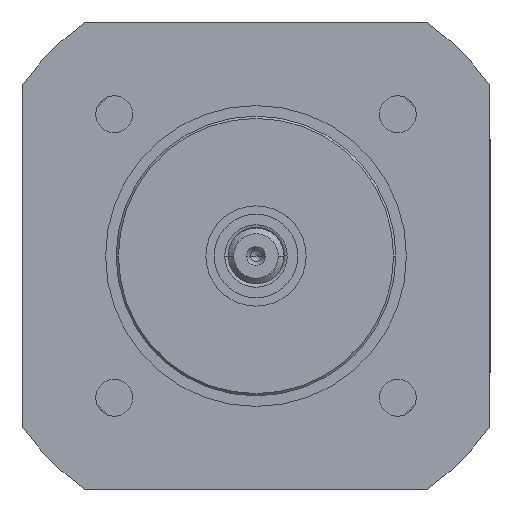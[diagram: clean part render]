
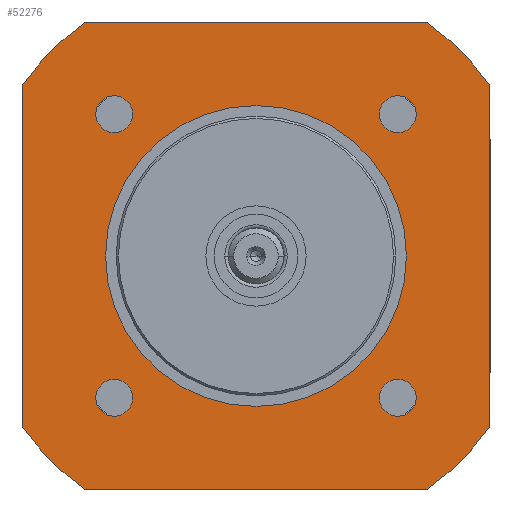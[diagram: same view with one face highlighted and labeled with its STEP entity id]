
A CAD part, left-side view. The second image highlights one B-rep face of the part: STEP entity #52276.
In plain terms, the highlighted planar face has unit normal (-1, 0, 0).
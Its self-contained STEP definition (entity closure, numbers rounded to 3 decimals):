
#1985=CARTESIAN_POINT('',(-10.5,0.,0.));
#1986=DIRECTION('',(-1.,0.,0.));
#1987=DIRECTION('',(0.,-0.59,-0.808));
#1988=AXIS2_PLACEMENT_3D('',#1985,#1986,#1987);
#1990=DIRECTION('',(0.,-1.,0.));
#1991=VECTOR('',#1990,30.659);
#1992=CARTESIAN_POINT('',(-10.5,15.33,-21.));
#1993=LINE('',#1992,#1991);
#1994=CARTESIAN_POINT('',(-10.5,0.,0.));
#1995=DIRECTION('',(-1.,0.,0.));
#1996=DIRECTION('',(0.,0.808,-0.59));
#1997=AXIS2_PLACEMENT_3D('',#1994,#1995,#1996);
#1999=DIRECTION('',(0.,0.,-1.));
#2000=VECTOR('',#1999,30.659);
#2001=CARTESIAN_POINT('',(-10.5,21.,15.33));
#2002=LINE('',#2001,#2000);
#2003=CARTESIAN_POINT('',(-10.5,0.,0.));
#2004=DIRECTION('',(-1.,0.,0.));
#2005=DIRECTION('',(0.,0.59,0.808));
#2006=AXIS2_PLACEMENT_3D('',#2003,#2004,#2005);
#2008=DIRECTION('',(0.,1.,0.));
#2009=VECTOR('',#2008,30.659);
#2010=CARTESIAN_POINT('',(-10.5,-15.33,21.));
#2011=LINE('',#2010,#2009);
#2012=CARTESIAN_POINT('',(-10.5,0.,0.));
#2013=DIRECTION('',(-1.,0.,0.));
#2014=DIRECTION('',(0.,-0.808,0.59));
#2015=AXIS2_PLACEMENT_3D('',#2012,#2013,#2014);
#2017=DIRECTION('',(0.,0.,1.));
#2018=VECTOR('',#2017,30.659);
#2019=CARTESIAN_POINT('',(-10.5,-21.,-15.33));
#2020=LINE('',#2019,#2018);
#2021=CARTESIAN_POINT('',(-10.5,0.,0.));
#2022=DIRECTION('',(-1.,0.,0.));
#2023=DIRECTION('',(0.,0.,1.));
#2024=AXIS2_PLACEMENT_3D('',#2021,#2022,#2023);
#2026=CARTESIAN_POINT('',(-10.5,0.,0.));
#2027=DIRECTION('',(-1.,0.,0.));
#2028=DIRECTION('',(0.,0.,-1.));
#2029=AXIS2_PLACEMENT_3D('',#2026,#2027,#2028);
#2031=CARTESIAN_POINT('',(-10.5,12.728,-12.728));
#2032=DIRECTION('',(-1.,0.,0.));
#2033=DIRECTION('',(0.,1.,0.));
#2034=AXIS2_PLACEMENT_3D('',#2031,#2032,#2033);
#2036=CARTESIAN_POINT('',(-10.5,12.728,-12.728));
#2037=DIRECTION('',(-1.,0.,0.));
#2038=DIRECTION('',(0.,-1.,0.));
#2039=AXIS2_PLACEMENT_3D('',#2036,#2037,#2038);
#2041=CARTESIAN_POINT('',(-10.5,-12.728,-12.728));
#2042=DIRECTION('',(-1.,0.,0.));
#2043=DIRECTION('',(0.,0.,-1.));
#2044=AXIS2_PLACEMENT_3D('',#2041,#2042,#2043);
#2046=CARTESIAN_POINT('',(-10.5,-12.728,-12.728));
#2047=DIRECTION('',(-1.,0.,0.));
#2048=DIRECTION('',(0.,0.,1.));
#2049=AXIS2_PLACEMENT_3D('',#2046,#2047,#2048);
#2051=CARTESIAN_POINT('',(-10.5,-12.728,12.728));
#2052=DIRECTION('',(-1.,0.,0.));
#2053=DIRECTION('',(0.,-1.,0.));
#2054=AXIS2_PLACEMENT_3D('',#2051,#2052,#2053);
#2056=CARTESIAN_POINT('',(-10.5,-12.728,12.728));
#2057=DIRECTION('',(-1.,0.,0.));
#2058=DIRECTION('',(0.,1.,0.));
#2059=AXIS2_PLACEMENT_3D('',#2056,#2057,#2058);
#2061=CARTESIAN_POINT('',(-10.5,12.728,12.728));
#2062=DIRECTION('',(-1.,0.,0.));
#2063=DIRECTION('',(0.,0.,1.));
#2064=AXIS2_PLACEMENT_3D('',#2061,#2062,#2063);
#2066=CARTESIAN_POINT('',(-10.5,12.728,12.728));
#2067=DIRECTION('',(-1.,0.,0.));
#2068=DIRECTION('',(0.,0.,-1.));
#2069=AXIS2_PLACEMENT_3D('',#2066,#2067,#2068);
#45876=CARTESIAN_POINT('',(-10.5,-21.,-15.33));
#45877=CARTESIAN_POINT('',(-10.5,-21.,15.33));
#45878=VERTEX_POINT('',#45876);
#45879=VERTEX_POINT('',#45877);
#45880=CARTESIAN_POINT('',(-10.5,-15.33,21.));
#45881=CARTESIAN_POINT('',(-10.5,15.33,21.));
#45882=VERTEX_POINT('',#45880);
#45883=VERTEX_POINT('',#45881);
#45884=CARTESIAN_POINT('',(-10.5,21.,15.33));
#45885=CARTESIAN_POINT('',(-10.5,21.,-15.33));
#45886=VERTEX_POINT('',#45884);
#45887=VERTEX_POINT('',#45885);
#45888=CARTESIAN_POINT('',(-10.5,15.33,-21.));
#45889=CARTESIAN_POINT('',(-10.5,-15.33,-21.));
#45890=VERTEX_POINT('',#45888);
#45891=VERTEX_POINT('',#45889);
#45932=CARTESIAN_POINT('',(-10.5,0.,13.5));
#45933=CARTESIAN_POINT('',(-10.5,0.,-13.5));
#45934=VERTEX_POINT('',#45932);
#45935=VERTEX_POINT('',#45933);
#45968=CARTESIAN_POINT('',(-10.5,14.378,-12.728));
#45969=CARTESIAN_POINT('',(-10.5,11.078,-12.728));
#45970=VERTEX_POINT('',#45968);
#45971=VERTEX_POINT('',#45969);
#45972=CARTESIAN_POINT('',(-10.5,-12.728,-14.378));
#45973=CARTESIAN_POINT('',(-10.5,-12.728,-11.078));
#45974=VERTEX_POINT('',#45972);
#45975=VERTEX_POINT('',#45973);
#45976=CARTESIAN_POINT('',(-10.5,-14.378,12.728));
#45977=CARTESIAN_POINT('',(-10.5,-11.078,12.728));
#45978=VERTEX_POINT('',#45976);
#45979=VERTEX_POINT('',#45977);
#45980=CARTESIAN_POINT('',(-10.5,12.728,14.378));
#45981=CARTESIAN_POINT('',(-10.5,12.728,11.078));
#45982=VERTEX_POINT('',#45980);
#45983=VERTEX_POINT('',#45981);
#52228=CARTESIAN_POINT('',(-10.5,0.,0.));
#52229=DIRECTION('',(-1.,0.,0.));
#52230=DIRECTION('',(0.,1.,0.));
#52231=AXIS2_PLACEMENT_3D('',#52228,#52229,#52230);
#52232=PLANE('',#52231);
#52234=ORIENTED_EDGE('',*,*,#52233,.F.);
#52235=ORIENTED_EDGE('',*,*,#52128,.F.);
#52236=ORIENTED_EDGE('',*,*,#52222,.F.);
#52237=ORIENTED_EDGE('',*,*,#51546,.F.);
#52239=ORIENTED_EDGE('',*,*,#52238,.F.);
#52240=ORIENTED_EDGE('',*,*,#51490,.F.);
#52242=ORIENTED_EDGE('',*,*,#52241,.F.);
#52243=ORIENTED_EDGE('',*,*,#51416,.F.);
#52244=EDGE_LOOP('',(#52234,#52235,#52236,#52237,#52239,#52240,#52242,#52243));
#52245=FACE_OUTER_BOUND('',#52244,.F.);
#52247=ORIENTED_EDGE('',*,*,#52246,.T.);
#52249=ORIENTED_EDGE('',*,*,#52248,.T.);
#52250=EDGE_LOOP('',(#52247,#52249));
#52251=FACE_BOUND('',#52250,.F.);
#52253=ORIENTED_EDGE('',*,*,#52252,.T.);
#52255=ORIENTED_EDGE('',*,*,#52254,.T.);
#52256=EDGE_LOOP('',(#52253,#52255));
#52257=FACE_BOUND('',#52256,.F.);
#52259=ORIENTED_EDGE('',*,*,#52258,.T.);
#52261=ORIENTED_EDGE('',*,*,#52260,.T.);
#52262=EDGE_LOOP('',(#52259,#52261));
#52263=FACE_BOUND('',#52262,.F.);
#52265=ORIENTED_EDGE('',*,*,#52264,.T.);
#52267=ORIENTED_EDGE('',*,*,#52266,.T.);
#52268=EDGE_LOOP('',(#52265,#52267));
#52269=FACE_BOUND('',#52268,.F.);
#52271=ORIENTED_EDGE('',*,*,#52270,.T.);
#52273=ORIENTED_EDGE('',*,*,#52272,.T.);
#52274=EDGE_LOOP('',(#52271,#52273));
#52275=FACE_BOUND('',#52274,.F.);
#52276=ADVANCED_FACE('',(#52245,#52251,#52257,#52263,#52269,#52275),#52232,.T.);
#1989=CIRCLE('',#1988,26.);
#1998=CIRCLE('',#1997,26.);
#2007=CIRCLE('',#2006,26.);
#2016=CIRCLE('',#2015,26.);
#2025=CIRCLE('',#2024,13.5);
#2030=CIRCLE('',#2029,13.5);
#2035=CIRCLE('',#2034,1.65);
#2040=CIRCLE('',#2039,1.65);
#2045=CIRCLE('',#2044,1.65);
#2050=CIRCLE('',#2049,1.65);
#2055=CIRCLE('',#2054,1.65);
#2060=CIRCLE('',#2059,1.65);
#2065=CIRCLE('',#2064,1.65);
#2070=CIRCLE('',#2069,1.65);
#51416=EDGE_CURVE('',#45878,#45879,#2020,.T.);
#51490=EDGE_CURVE('',#45882,#45883,#2011,.T.);
#51546=EDGE_CURVE('',#45886,#45887,#2002,.T.);
#52128=EDGE_CURVE('',#45890,#45891,#1993,.T.);
#52222=EDGE_CURVE('',#45887,#45890,#1998,.T.);
#52233=EDGE_CURVE('',#45891,#45878,#1989,.T.);
#52238=EDGE_CURVE('',#45883,#45886,#2007,.T.);
#52241=EDGE_CURVE('',#45879,#45882,#2016,.T.);
#52246=EDGE_CURVE('',#45934,#45935,#2025,.T.);
#52248=EDGE_CURVE('',#45935,#45934,#2030,.T.);
#52252=EDGE_CURVE('',#45970,#45971,#2035,.T.);
#52254=EDGE_CURVE('',#45971,#45970,#2040,.T.);
#52258=EDGE_CURVE('',#45974,#45975,#2045,.T.);
#52260=EDGE_CURVE('',#45975,#45974,#2050,.T.);
#52264=EDGE_CURVE('',#45978,#45979,#2055,.T.);
#52266=EDGE_CURVE('',#45979,#45978,#2060,.T.);
#52270=EDGE_CURVE('',#45982,#45983,#2065,.T.);
#52272=EDGE_CURVE('',#45983,#45982,#2070,.T.);
